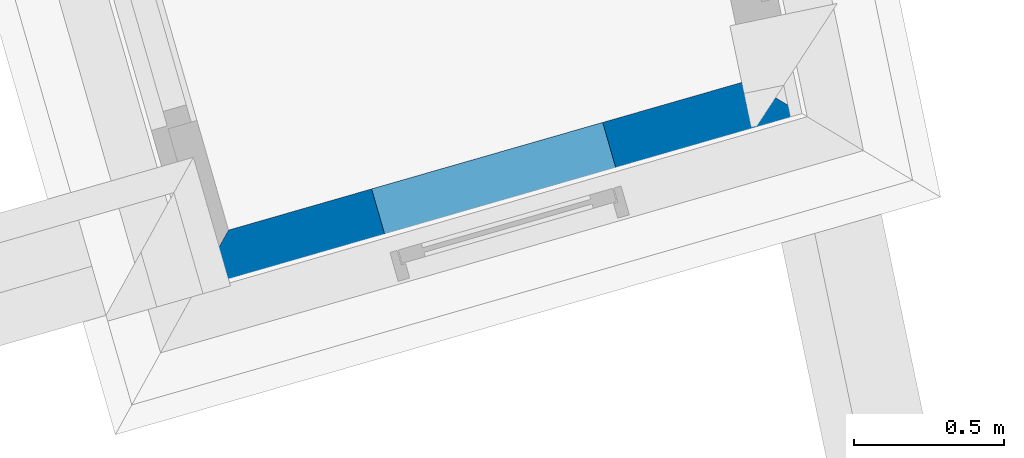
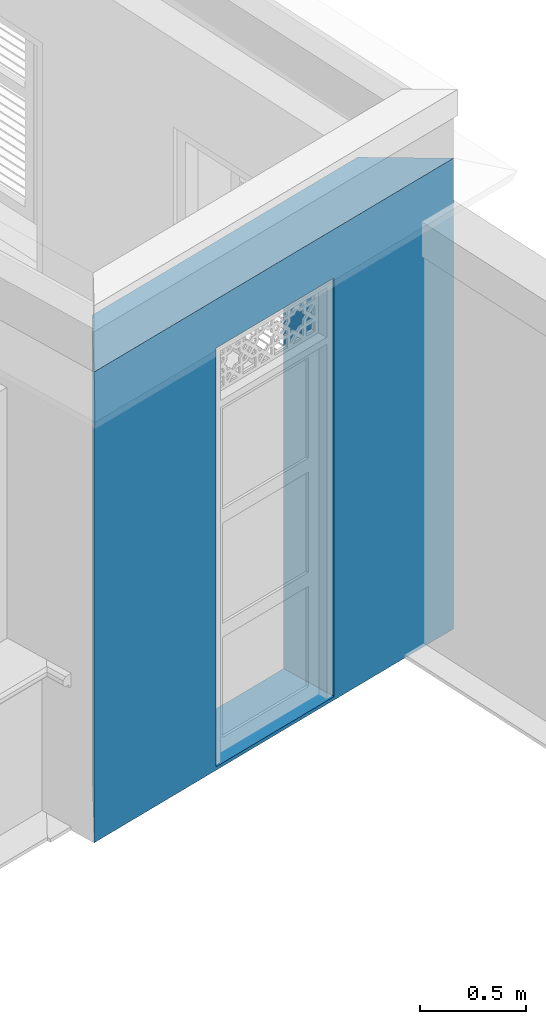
# One storey, part 11 of 22: 1 wall, 1 opening.
"""IFC4 building model written with IfcOpenShell, lengths in metres."""

from ifc_helpers import new_model, si_unit, frame, origin_with_axes, place, context, subcontext, project, spatial, polyline, outline, extrude, material, layer, layer_set, layer_usage, type_object, element, save


model = new_model("IFC4")

# Units and contexts
model_context = context("Model", 3, world=origin_with_axes())
body_context = subcontext(model_context, "Body", "Model", "MODEL_VIEW")
ifc_project = project(units=[si_unit("PLANEANGLEUNIT", "RADIAN"), si_unit("MASSUNIT", "GRAM", prefix="KILO"), si_unit("FORCEUNIT", "NEWTON", prefix="KILO"), si_unit("LENGTHUNIT", "METRE"), si_unit("AREAUNIT", "SQUARE_METRE"), si_unit("VOLUMEUNIT", "CUBIC_METRE")], contexts=[model_context, model_context])

# Site, building, storey
site_placement = place(None, origin_with_axes())
site = spatial("IfcSite", under=ifc_project, at=site_placement, Name="Site plot-9", CompositionType="ELEMENT")
building_placement = place(None, origin_with_axes())
building = spatial("IfcBuilding", under=site, at=building_placement, Name="Building plot-9", CompositionType="ELEMENT")
storey_placement = place(None, frame((0.0, 0.0, 2.85), z_axis=(0.0, 0.0, 1.0), x_axis=(1.0, 0.0, 0.0)))
storey = spatial("IfcBuildingStorey", under=building, at=storey_placement, Name="plot-9 1", CompositionType="ELEMENT", Elevation=2.85)

# Wall, opening
ifc_material = material(Name="Masonry")
ifc_layer = layer(ifc_material, 0.33, ventilated=False)
ifc_layer_set = layer_set([ifc_layer], Name="exterior_0.08_0.25")
ifc_layer_usage = layer_usage(ifc_layer_set, "AXIS2", "POSITIVE", -0.25)
wall_type = type_object("IfcWallType", Name="exterior_0.08_0.25", PredefinedType="SOLIDWALL", material=ifc_layer_set)
wall_placement = place(storey_placement, frame((-14.2817740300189, -1.32481461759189, 0.0), z_axis=(0.0, 0.0, 1.0), x_axis=(0.961007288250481, 0.276523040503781, 0.0)))
wall = element("IfcWall", 1, at=wall_placement, inside=storey, type_object=wall_type, material=ifc_layer_usage, Name="exterior", context=body_context, shape_type="SweptSolid", body=[
    extrude(outline(polyline([(0.0800000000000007, 0.0800000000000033), (-0.249999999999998, -0.249999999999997), (2.18295018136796, -0.25), (1.87661452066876, 0.0799999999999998), (0.0800000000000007, 0.0800000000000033)])), origin_with_axes(), (0.0, 0.0, 1.0), 2.7),
])
opening_placement = place(wall_placement, frame((0.575438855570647, 0.0, 0.02)))
element("IfcOpeningElement", 2, at=opening_placement, cuts=wall, Name="My Opening", ObjectType="Opening", context=body_context, shape_type="SweptSolid", body=[
    extrude(outline(polyline([(0.0, -0.27), (0.799999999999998, -0.27), (0.8, 1.1), (1.66533453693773e-15, 1.1), (0.0, -0.27)])), origin_with_axes(), (0.0, 0.0, 1.0), 2.4),
])

save(model, "model.ifc")
